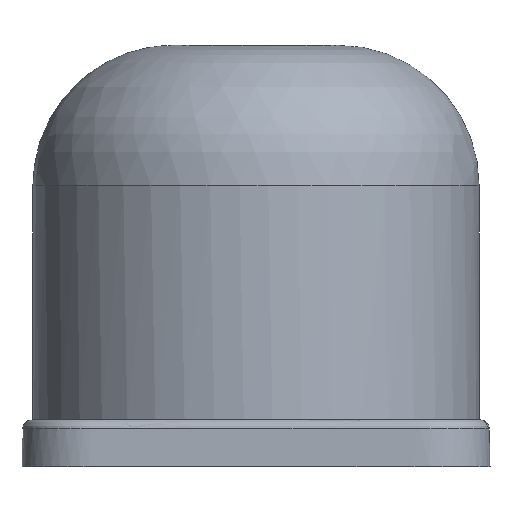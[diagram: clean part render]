
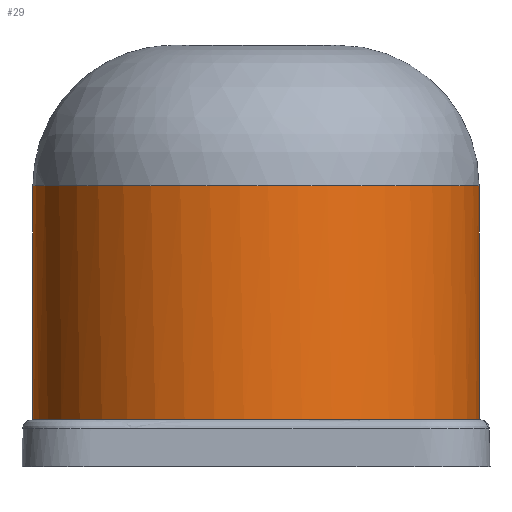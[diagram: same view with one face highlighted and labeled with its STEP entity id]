
A CAD part, front view. The second image highlights one B-rep face of the part: STEP entity #29.
In plain terms, the highlighted cylindrical face has radius 4.768 mm (diameter 9.536 mm), a partial arc.
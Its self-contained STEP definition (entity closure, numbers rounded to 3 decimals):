
#29=ADVANCED_FACE('',(#47),#217,.T.);
#47=FACE_OUTER_BOUND('',#65,.T.);
#65=EDGE_LOOP('',(#121,#122,#123,#124));
#121=ORIENTED_EDGE('',*,*,#139,.F.);
#122=ORIENTED_EDGE('',*,*,#140,.T.);
#123=ORIENTED_EDGE('',*,*,#157,.F.);
#124=ORIENTED_EDGE('',*,*,#155,.F.);
#139=EDGE_CURVE('',#198,#213,#180,.T.);
#140=EDGE_CURVE('',#198,#205,#181,.T.);
#155=EDGE_CURVE('',#213,#214,#193,.T.);
#157=EDGE_CURVE('',#214,#205,#194,.T.);
#180=(
BOUNDED_CURVE()
B_SPLINE_CURVE(2,(#1671,#1672,#1673,#1674,#1675),.UNSPECIFIED.,.F.,.F.)
B_SPLINE_CURVE_WITH_KNOTS((3,2,3),(-38.4,-28.8,-19.2),
 .UNSPECIFIED.)
CURVE()
GEOMETRIC_REPRESENTATION_ITEM()
RATIONAL_B_SPLINE_CURVE((1.,0.707,1.,0.707,1.))
REPRESENTATION_ITEM('')
);
#181=(
BOUNDED_CURVE()
B_SPLINE_CURVE(1,(#1676,#1677),.UNSPECIFIED.,.F.,.F.)
B_SPLINE_CURVE_WITH_KNOTS((2,2),(0.,5.),.UNSPECIFIED.)
CURVE()
GEOMETRIC_REPRESENTATION_ITEM()
RATIONAL_B_SPLINE_CURVE((1.,1.))
REPRESENTATION_ITEM('')
);
#193=(
BOUNDED_CURVE()
B_SPLINE_CURVE(1,(#2097,#2098),.UNSPECIFIED.,.F.,.F.)
B_SPLINE_CURVE_WITH_KNOTS((2,2),(0.,5.),.UNSPECIFIED.)
CURVE()
GEOMETRIC_REPRESENTATION_ITEM()
RATIONAL_B_SPLINE_CURVE((1.,1.))
REPRESENTATION_ITEM('')
);
#194=(
BOUNDED_CURVE()
B_SPLINE_CURVE(2,(#2102,#2103,#2104,#2105,#2106),.UNSPECIFIED.,.F.,.F.)
B_SPLINE_CURVE_WITH_KNOTS((3,2,3),(5.555,8.332,11.11),
 .UNSPECIFIED.)
CURVE()
GEOMETRIC_REPRESENTATION_ITEM()
RATIONAL_B_SPLINE_CURVE((1.,0.707,1.,0.707,1.))
REPRESENTATION_ITEM('')
);
#198=VERTEX_POINT('',#1330);
#205=VERTEX_POINT('',#1337);
#213=VERTEX_POINT('',#1345);
#214=VERTEX_POINT('',#1346);
#217=CYLINDRICAL_SURFACE('',#257,4.768);
#257=AXIS2_PLACEMENT_3D('',#1262,#272,$);
#272=DIRECTION('',(0.,0.,1.));
#1262=CARTESIAN_POINT('',(0.,0.,4.5));
#1330=CARTESIAN_POINT('',(4.768,0.,0.5));
#1337=CARTESIAN_POINT('',(4.768,0.,5.5));
#1345=CARTESIAN_POINT('',(-4.768,0.,0.5));
#1346=CARTESIAN_POINT('',(-4.768,0.,5.5));
#1671=CARTESIAN_POINT('',(4.768,0.,0.5));
#1672=CARTESIAN_POINT('',(4.768,-4.768,0.5));
#1673=CARTESIAN_POINT('',(0.,-4.768,0.5));
#1674=CARTESIAN_POINT('',(-4.768,-4.768,0.5));
#1675=CARTESIAN_POINT('',(-4.768,0.,0.5));
#1676=CARTESIAN_POINT('',(4.768,0.,0.5));
#1677=CARTESIAN_POINT('',(4.768,0.,5.5));
#2097=CARTESIAN_POINT('',(-4.768,0.,0.5));
#2098=CARTESIAN_POINT('',(-4.768,0.,5.5));
#2102=CARTESIAN_POINT('',(-4.768,0.,5.5));
#2103=CARTESIAN_POINT('',(-4.768,-4.768,5.5));
#2104=CARTESIAN_POINT('',(0.,-4.768,5.5));
#2105=CARTESIAN_POINT('',(4.768,-4.768,5.5));
#2106=CARTESIAN_POINT('',(4.768,0.,5.5));
